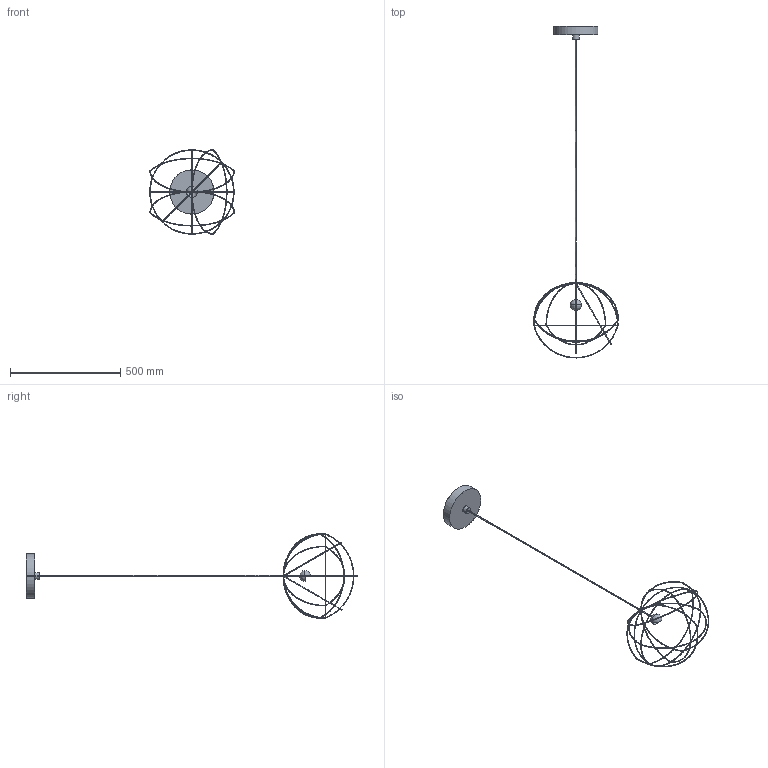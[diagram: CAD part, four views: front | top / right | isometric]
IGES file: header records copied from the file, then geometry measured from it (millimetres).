
Start section: SolidWorks IGES file using analytic representation for surfaces
Global section: file name: C:\Users\danielet\Desktop\3D CARLOS\BELLONA-C3711-3D\BELLONA-C3711-3D.IGS; native system: SolidWorks 2018; preprocessor: SolidWorks 2018; author: danielet; date: 220204.103551; units: millimetre
Bounding box: 383.58 x 1502.4 x 382.5 mm (x, y, z)
Surface area: 172107.3 mm2 (no closed solid volume)
Topology: 0 solids, 0 shells, 52 faces, 2228 edges, 2223 vertices
Faces by surface type: bspline 42, revolution 10
